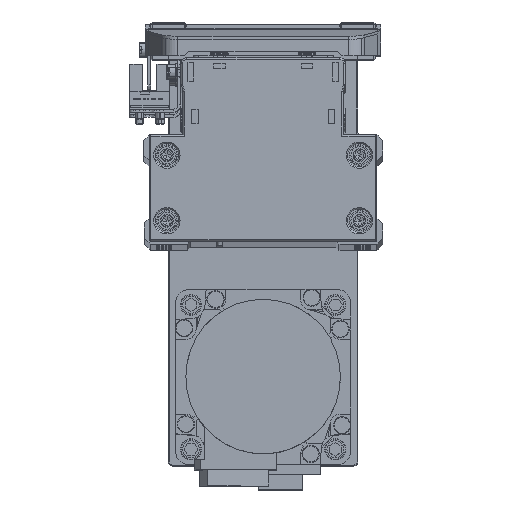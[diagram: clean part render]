
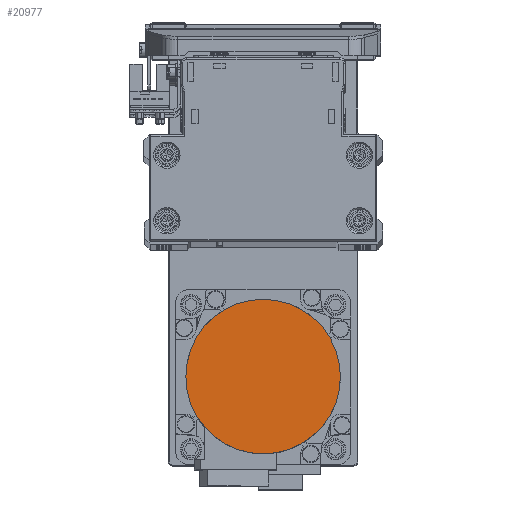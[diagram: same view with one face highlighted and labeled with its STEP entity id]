
A CAD part, top view. The second image highlights one B-rep face of the part: STEP entity #20977.
In plain terms, the highlighted planar face has unit normal (0, 0, 1) as drawn and (0, 0, -1) by its records, which use the part's own axes.
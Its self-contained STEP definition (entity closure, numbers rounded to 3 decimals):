
#95 = VERTEX_POINT ( 'NONE', #6885 ) ;
#194 = EDGE_CURVE ( 'NONE', #34690, #95, #35764, .T. ) ;
#1261 = EDGE_LOOP ( 'NONE', ( #30028, #15908 ) ) ;
#1761 = CARTESIAN_POINT ( 'NONE',  ( 0., 0., -109.7 ) ) ;
#3871 = CARTESIAN_POINT ( 'NONE',  ( 0., 0., -109.7 ) ) ;
#6885 = CARTESIAN_POINT ( 'NONE',  ( -26.5, 0., -109.7 ) ) ;
#7506 = CARTESIAN_POINT ( 'NONE',  ( 0., 0., -109.7 ) ) ;
#13455 = AXIS2_PLACEMENT_3D ( 'NONE', #3871, #16696, #29536 ) ;
#14586 = DIRECTION ( 'NONE',  ( 0., 0., 1. ) ) ;
#15908 = ORIENTED_EDGE ( 'NONE', *, *, #194, .F. ) ;
#16696 = DIRECTION ( 'NONE',  ( 0., 0., 1. ) ) ;
#17601 = AXIS2_PLACEMENT_3D ( 'NONE', #7506, #20335, #33160 ) ;
#19874 = FACE_OUTER_BOUND ( 'NONE', #1261, .T. ) ;
#20335 = DIRECTION ( 'NONE',  ( 0., 0., 1. ) ) ;
#20977 = ADVANCED_FACE ( 'NONE', ( #19874 ), #32703, .F. ) ;
#27424 = DIRECTION ( 'NONE',  ( -1., 0., 0. ) ) ;
#29536 = DIRECTION ( 'NONE',  ( 1., 0., 0. ) ) ;
#30028 = ORIENTED_EDGE ( 'NONE', *, *, #36708, .F. ) ;
#32237 = CIRCLE ( 'NONE', #37604, 26.5 ) ;
#32703 = PLANE ( 'NONE',  #13455 ) ;
#33160 = DIRECTION ( 'NONE',  ( 1., 0., 0. ) ) ;
#34690 = VERTEX_POINT ( 'NONE', #37889 ) ;
#35764 = CIRCLE ( 'NONE', #17601, 26.5 ) ;
#36708 = EDGE_CURVE ( 'NONE', #95, #34690, #32237, .T. ) ;
#37604 = AXIS2_PLACEMENT_3D ( 'NONE', #1761, #14586, #27424 ) ;
#37889 = CARTESIAN_POINT ( 'NONE',  ( 26.5, 0., -109.7 ) ) ;
